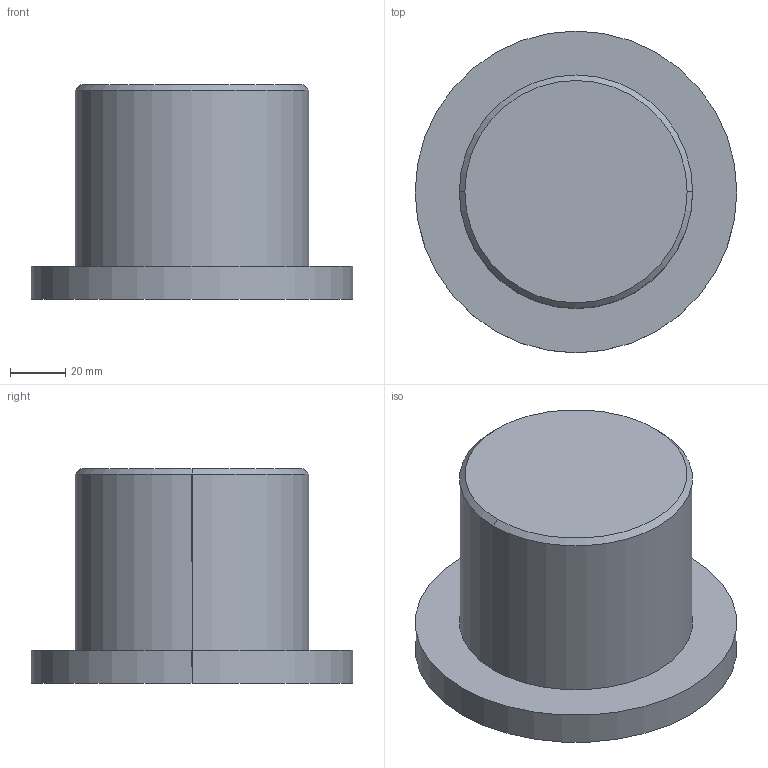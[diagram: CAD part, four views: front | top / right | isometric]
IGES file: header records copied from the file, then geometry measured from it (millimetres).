
Start section:  PTC IGES file: sst_ocs_flange.igs
Global section: file name: sst_ocs_flange.igs; native system: Pro/ENGINEER by Parametric Technology Corporation; preprocessor: 1999260; author: oshatz; organization: Unknown; date: 000922.101647; units: millimetre
Bounding box: 116.5 x 116.5 x 77.84 mm (x, y, z)
Surface area: 42873.1 mm2 (no closed solid volume)
Topology: 0 solids, 0 shells, 9 faces, 32 edges, 32 vertices
Faces by surface type: revolution 6, bspline 3
